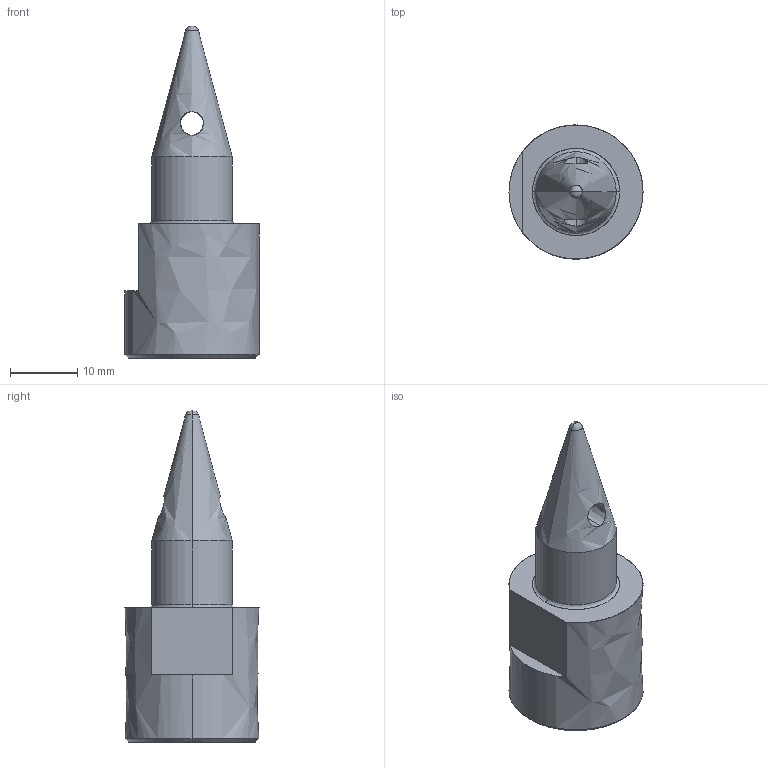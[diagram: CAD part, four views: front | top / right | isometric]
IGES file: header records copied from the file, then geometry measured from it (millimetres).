
Global section: file name: E:\UnigraphicsGraphicData\MISUMI_PRESS-PARTS\IGES\3d_sdkl20_03094_r00.igs; native system: NX V5.0; preprocessor: UGS NX IGES V5.0; author: MISUMI; date: 20110105.162515; units: millimetre
Bounding box: 20 x 20.02 x 49.53 mm (x, y, z)
Surface area: 2623.8 mm2 (no closed solid volume)
Topology: 0 solids, 0 shells, 18 faces, 121 edges, 119 vertices
Faces by surface type: bspline 18
